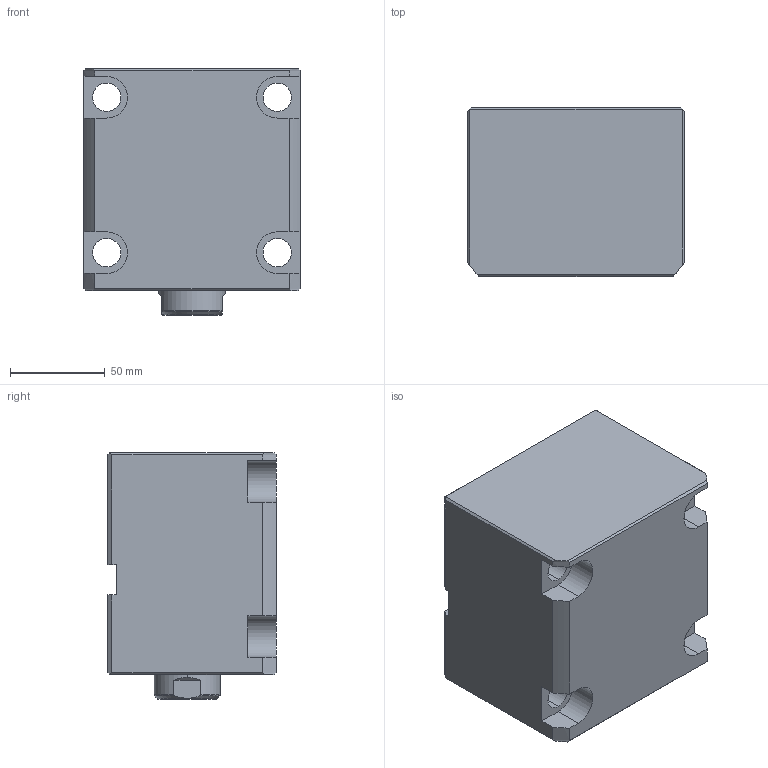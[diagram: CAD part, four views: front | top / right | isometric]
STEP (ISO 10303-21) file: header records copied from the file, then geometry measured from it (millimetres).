
FILE_DESCRIPTION (( 'STEP AP214' ), '1' );
FILE_NAME ('chtb-lam63x50n_asm.STEP', '2018-05-22T03:06:28', ( 'Windows' ), ( 'Microsoft' ), 'SwSTEP 2.0', 'SolidWorks 2015', '' );
FILE_SCHEMA (( 'AUTOMOTIVE_DESIGN' ));
Length unit declared in the file: millimetre
Products named in the file (4): CHTB-63QG; chtb-lam63x50n_asm; CHTB-LAM63X50NBT; CHTB63X50NHSG
Assembly tree (3 placements, depth 2):
  chtb-lam63x50n_asm
    CHTB-63QG
    CHTB63X50NHSG
    CHTB-LAM63X50NBT
Bounding box: 114 x 89 x 130 mm (x, y, z)
Volume: 989965.3 mm3; surface area: 145727.6 mm2
Topology: 3 solids, 3 shells, 176 faces, 524 edges, 356 vertices
Faces by surface type: cylinder 96, plane 51, bspline 13, cone 8, torus 8
Entity records: 18805 total; most frequent: CARTESIAN_POINT 14319, ORIENTED_EDGE 1036, DIRECTION 751, EDGE_CURVE 518, VERTEX_POINT 356, AXIS2_PLACEMENT_3D 277, EDGE_LOOP 198, VECTOR 197
